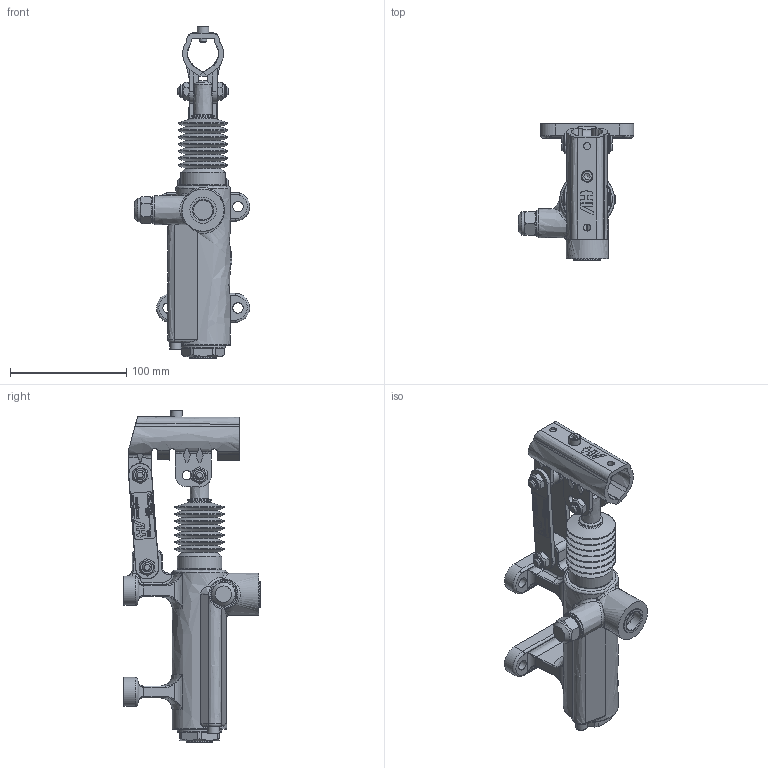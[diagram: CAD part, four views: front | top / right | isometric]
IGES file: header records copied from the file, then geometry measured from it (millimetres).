
Global section: file name: No Iges File Name specified; native system: Autodesk Inventor 2013; preprocessor: AutoDesk Inventor Iges Exporter R2013; author: christian.scardovi; date: 20240322.162812; units: millimetre
Bounding box: 98.99 x 117 x 285.13 mm (x, y, z)
Volume: 524442.2 mm3; surface area: 99968.5 mm2
Topology: 3 solids, 3 shells, 1157 faces, 2977 edges, 1884 vertices
Faces by surface type: bspline 1157
